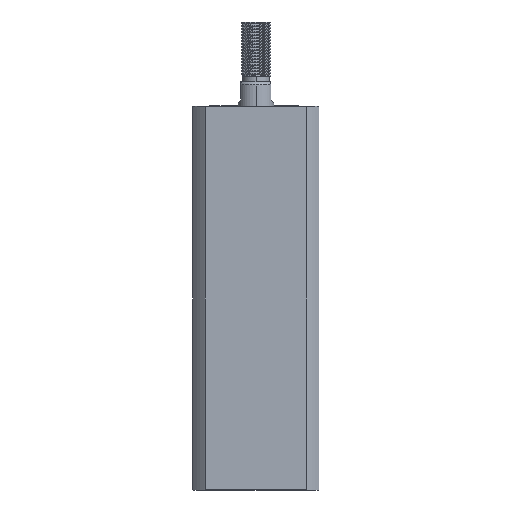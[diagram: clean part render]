
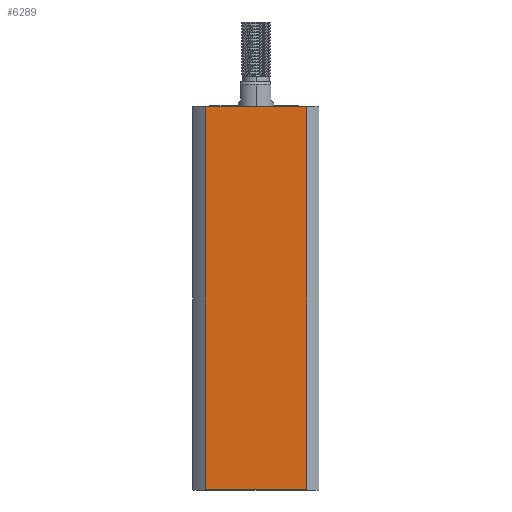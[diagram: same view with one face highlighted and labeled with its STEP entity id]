
A CAD part, left-side view. The second image highlights one B-rep face of the part: STEP entity #6289.
In plain terms, the highlighted planar face has unit normal (-1, 0, 0).
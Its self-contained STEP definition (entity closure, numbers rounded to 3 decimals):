
#1032 = CARTESIAN_POINT ( 'NONE',  ( -21., 21., 0.3 ) ) ;
#1361 = CARTESIAN_POINT ( 'NONE',  ( -21., -16.971, 0.3 ) ) ;
#2448 = CARTESIAN_POINT ( 'NONE',  ( -21., 16.971, 0.3 ) ) ;
#2505 = VECTOR ( 'NONE', #15007, 1000. ) ;
#2521 = CARTESIAN_POINT ( 'NONE',  ( -21., -16.971, 127.7 ) ) ;
#3221 = EDGE_LOOP ( 'NONE', ( #11708, #8875, #9590, #12998 ) ) ;
#5170 = PLANE ( 'NONE',  #10325 ) ;
#5326 = EDGE_CURVE ( 'NONE', #6018, #6050, #8874, .T. ) ;
#5359 = VECTOR ( 'NONE', #13565, 1000. ) ;
#5466 = VECTOR ( 'NONE', #7977, 1000. ) ;
#5779 = CARTESIAN_POINT ( 'NONE',  ( -21., -16.971, -172. ) ) ;
#6018 = VERTEX_POINT ( 'NONE', #2521 ) ;
#6050 = VERTEX_POINT ( 'NONE', #1361 ) ;
#6289 = ADVANCED_FACE ( 'NONE', ( #8496 ), #5170, .F. ) ;
#6337 = DIRECTION ( 'NONE',  ( 0., 1., 0. ) ) ;
#6640 = CARTESIAN_POINT ( 'NONE',  ( -21., 16.971, 127.7 ) ) ;
#7483 = EDGE_CURVE ( 'NONE', #8240, #6050, #8701, .T. ) ;
#7977 = DIRECTION ( 'NONE',  ( 0., 0., 1. ) ) ;
#8046 = EDGE_CURVE ( 'NONE', #6018, #9225, #14335, .T. ) ;
#8240 = VERTEX_POINT ( 'NONE', #2448 ) ;
#8496 = FACE_OUTER_BOUND ( 'NONE', #3221, .T. ) ;
#8511 = VECTOR ( 'NONE', #14171, 1000. ) ;
#8701 = LINE ( 'NONE', #1032, #2505 ) ;
#8874 = LINE ( 'NONE', #5779, #8511 ) ;
#8875 = ORIENTED_EDGE ( 'NONE', *, *, #7483, .T. ) ;
#9225 = VERTEX_POINT ( 'NONE', #6640 ) ;
#9590 = ORIENTED_EDGE ( 'NONE', *, *, #5326, .F. ) ;
#10325 = AXIS2_PLACEMENT_3D ( 'NONE', #10996, #13319, #6337 ) ;
#10996 = CARTESIAN_POINT ( 'NONE',  ( -21., 21., 128. ) ) ;
#11242 = CARTESIAN_POINT ( 'NONE',  ( -21., 21., 127.7 ) ) ;
#11708 = ORIENTED_EDGE ( 'NONE', *, *, #13528, .F. ) ;
#12998 = ORIENTED_EDGE ( 'NONE', *, *, #8046, .T. ) ;
#13319 = DIRECTION ( 'NONE',  ( 1., 0., 0. ) ) ;
#13528 = EDGE_CURVE ( 'NONE', #8240, #9225, #14800, .T. ) ;
#13565 = DIRECTION ( 'NONE',  ( 0., 1., 0. ) ) ;
#14171 = DIRECTION ( 'NONE',  ( 0., 0., -1. ) ) ;
#14335 = LINE ( 'NONE', #11242, #5359 ) ;
#14800 = LINE ( 'NONE', #14979, #5466 ) ;
#14979 = CARTESIAN_POINT ( 'NONE',  ( -21., 16.971, -172. ) ) ;
#15007 = DIRECTION ( 'NONE',  ( 0., -1., 0. ) ) ;
